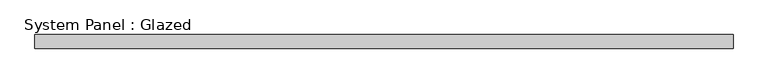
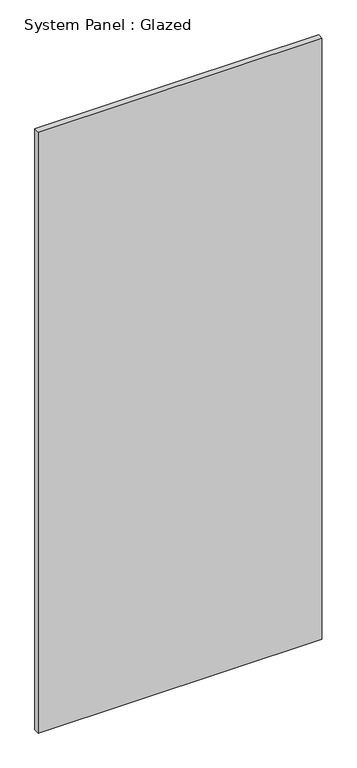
"""IFC4 building model written with IfcOpenShell, lengths in millimetres: plate geometry, System Panel : Glazed."""

from ifc_helpers import new_model, si_unit, origin, origin_with_axes, place, context, project, spatial, polyline, outline, extrude, source, transform, mapped, element, save


def system_panel_glazed_2e8e5681(model_context):
    return source(origin(), model_context, "Body", "SweptSolid", [
        extrude(outline(polyline([(624.9999998, 0.0), (-624.9999998, 0.0), (-624.9999998, 25.0), (624.9999998, 25.0), (624.9999998, 0.0)])), origin_with_axes(), (0.0, 0.0, 1.0), 2800.0),
    ])


if __name__ == "__main__":
    model = new_model("IFC4")
    model_context = context("Model", 3, world=origin())
    ifc_project = project(units=[si_unit("LENGTHUNIT", "METRE", prefix="MILLI")], contexts=[model_context])
    site = spatial("IfcSite", under=ifc_project)
    building = spatial("IfcBuilding", under=site)
    placement = place(None, origin())
    system_panel_glazed_shape = system_panel_glazed_2e8e5681(model_context)
    element("IfcPlate", 1, ObjectType="System Panel : Glazed", at=placement, inside=building, context=model_context, shape_type="MappedRepresentation", body=[
        mapped(system_panel_glazed_shape, transform((0.0, 0.0, 0.0), x_axis=(1.0, 0.0, 0.0), y_axis=(0.0, 1.0, 0.0), z_axis=(0.0, 0.0, 1.0))),
    ])
    save(model, "model.ifc")
